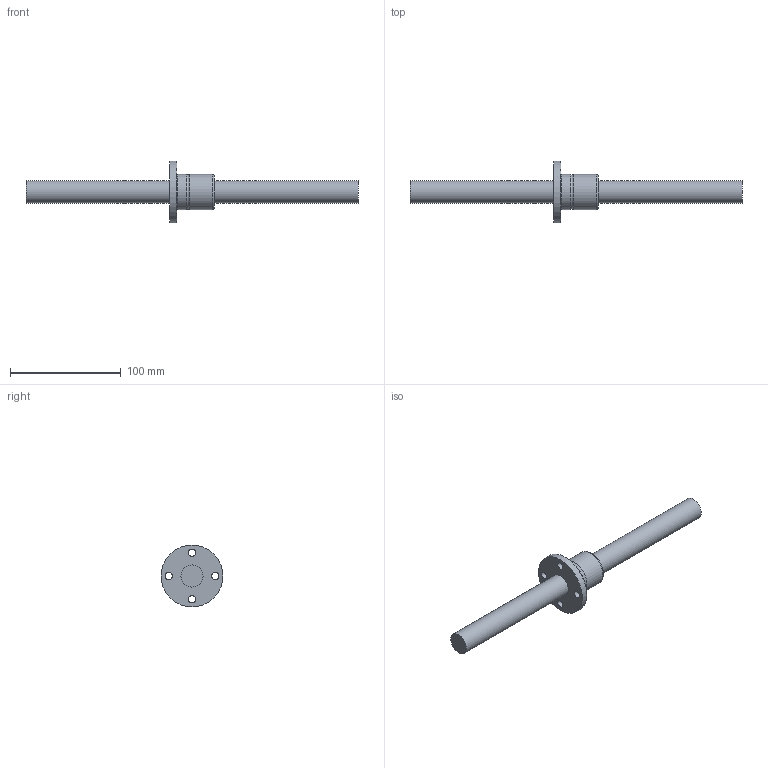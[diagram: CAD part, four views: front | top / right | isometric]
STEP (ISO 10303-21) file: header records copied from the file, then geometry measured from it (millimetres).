
FILE_DESCRIPTION((''),'2;1');
FILE_NAME('D:\製品 (図面)\カタログ用3D\ネジ関連\STEP形式\TMF-OH\TMF20-OH.stp','2010-06-02T15:13:58',('Tsuchiya'),(''),'Autodesk Inventor 10','Autodesk Inventor 10','');
FILE_SCHEMA(('AUTOMOTIVE_DESIGN { 1 0 10303 214 1 1 1 1 }'));
Length unit declared in the file: millimetre
Products named in the file (3): TMF20-OH; TMF20-OH1; TMF20-OH2
Assembly tree (2 placements, depth 2):
  TMF20-OH
    TMF20-OH1
    TMF20-OH2
Bounding box: 300 x 56 x 56 mm (x, y, z)
Volume: 122821.2 mm3; surface area: 30943.2 mm2
Topology: 2 solids, 2 shells, 18 faces, 40 edges, 27 vertices
Faces by surface type: cylinder 10, plane 5, bspline 2, torus 1
Full cylindrical faces by diameter (mm): 2 x1, 6.6 x4, 20 x2, 32 x2, 56 x1
Entity records: 711 total; most frequent: CARTESIAN_POINT 288, DIRECTION 82, ORIENTED_EDGE 44, EDGE_LOOP 44, AXIS2_PLACEMENT_3D 41, FACE_BOUND 26, VERTEX_POINT 22, EDGE_CURVE 22
